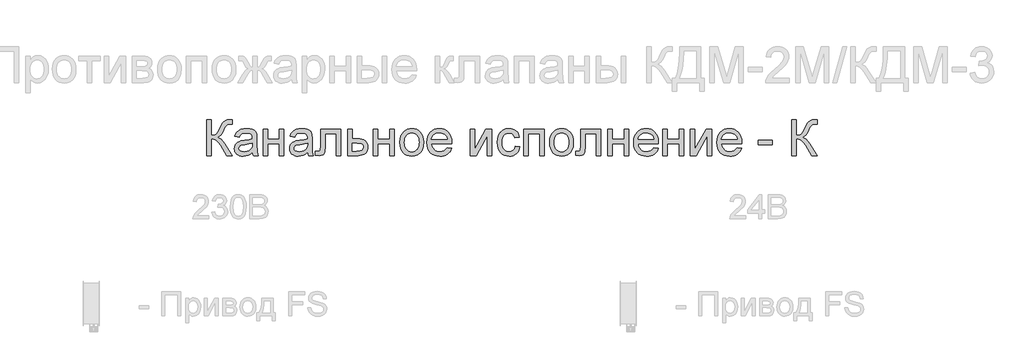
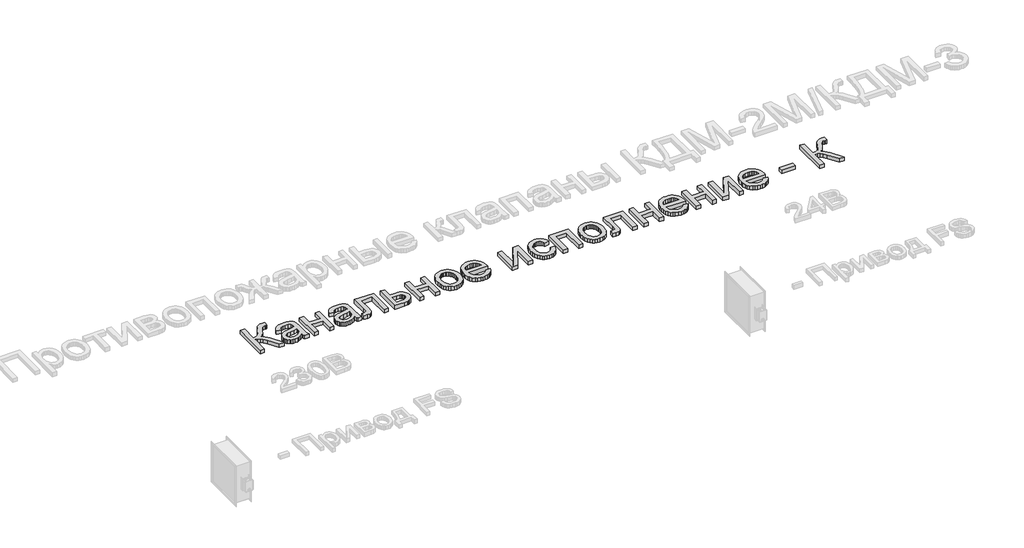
# One storey, part 12 of 23: 1 proxy.
"""IFC4 building model written with IfcOpenShell, lengths in millimetres."""

from ifc_helpers import new_model, si_unit, origin, origin_with_axes, place, context, project, spatial, polyline, outline, extrude, element, save

model = new_model("IFC4")

# Units and contexts
model_context = context("Model", 3, world=origin())
ifc_project = project(units=[si_unit("LENGTHUNIT", "METRE", prefix="MILLI")], contexts=[model_context])

# Site, building, storey
site = spatial("IfcSite", under=ifc_project)
building = spatial("IfcBuilding", under=site)
storey = spatial("IfcBuildingStorey", under=building, Name="Этаж 01", Elevation=0.0)

# Proxy
placement = place(None, origin())
element("IfcBuildingElementProxy", 1, Name="450 мм Arial", ObjectType="450 мм Arial", at=placement, inside=storey, context=model_context, shape_type="SweptSolid", body=[
    extrude(outline(polyline([(3648.5482803, -2074.0978463), (3704.7552982, -2074.0978463), (3704.7552982, -2270.8224088), (3742.807559, -2267.1036339), (3767.6039656, -2255.9473093), (3787.652416, -2229.6963266), (3811.4608086, -2180.6935774), (3842.4734698, -2117.84491), (3857.4309038, -2100.8153911), (3877.602856, -2086.7224694), (3901.5484727, -2077.2540021), (3927.8269003, -2074.0978463), (3964.7127557, -2074.7565223), (3964.7127557, -2130.9635401), (3952.3076912, -2130.6342021), (3939.9026267, -2130.3048641), (3914.1593735, -2133.6805786), (3895.9908941, -2143.8077219), (3880.3473393, -2165.0774675), (3862.6179772, -2201.6614298), (3840.8679471, -2247.2198524), (3822.8229694, -2272.1397607), (3805.0249953, -2285.2583909), (3784.0159757, -2295.4129791), (3805.7865894, -2304.6756102), (3827.4062565, -2320.8268944), (3848.8749771, -2343.8668316), (3870.1927511, -2373.7954219), (3964.7127557, -2523.7539891), (3899.5038327, -2523.7539891), (3819.5844792, -2397.0686403), (3788.7227645, -2356.4365651), (3763.3225716, -2330.9265929), (3737.3460373, -2317.4649023), (3704.7552982, -2312.9776721), (3704.7552982, -2523.7539891), (3648.5482803, -2523.7539891), (3648.5482803, -2074.0978463)])), origin_with_axes(), (0.0, 0.0, 1.0), 50.0),
    extrude(outline(polyline([(4217.6443361, -2481.5987257), (4190.789567, -2504.6249405), (4163.1388978, -2519.6921538), (4134.0610974, -2528.0079382), (4102.9249344, -2530.7798663), (4077.8986774, -2529.1125927), (4055.9531028, -2524.1107719), (4037.0882108, -2515.7744039), (4021.3040012, -2504.1034887), (4008.8406165, -2489.8390368), (3999.9381988, -2473.7220587), (3994.5967482, -2455.7525543), (3992.8162646, -2435.9305237), (3995.5058583, -2412.6298605), (4003.5746392, -2391.4698943), (4016.0208709, -2373.3563046), (4031.8428171, -2359.1947708), (4050.4366914, -2348.491286), (4071.1987075, -2340.7518431), (4119.8309515, -2332.2988345), (4177.3004316, -2323.4067087), (4217.3149981, -2312.9776721), (4217.6443361, -2300.4628283), (4213.7746146, -2275.378251), (4202.1654503, -2258.9662409), (4176.2026383, -2246.7807351), (4140.0303485, -2242.7188998), (4106.5476523, -2245.4222159), (4083.1646547, -2253.532164), (4067.2192067, -2268.5307652), (4056.0491597, -2291.9000405), (3999.8421419, -2284.8741632), (4009.59878, -2254.1359503), (4024.1582639, -2229.9844974), (4044.8791127, -2211.5141248), (4073.1198458, -2197.8191532), (4107.6591681, -2189.3386998), (4147.2757844, -2186.511882), (4185.2731556, -2189.0093618), (4215.3938598, -2196.5018012), (4238.104459, -2207.7679051), (4253.8715155, -2221.5863785), (4264.3279969, -2238.670787), (4271.1068706, -2259.7346963), (4273.8513539, -2308.9158369), (4273.8513539, -2378.8452712), (4276.7056165, -2476.4939868), (4287.9031084, -2523.7539891), (4231.6960905, -2523.7539891), (4222.6941853, -2504.213268), (4217.6443361, -2481.5987257)]), holes=[polyline([(4217.6443361, -2369.18469), (4179.8802459, -2378.543378), (4126.966608, -2386.4200451), (4078.6088124, -2395.5317296), (4066.0253565, -2401.7617067), (4056.7078357, -2410.3519394), (4050.9444208, -2420.6437518), (4049.0232825, -2431.9784678), (4053.2086195, -2448.692371), (4065.7646306, -2462.3873427), (4086.4168674, -2471.526472), (4114.8908815, -2474.5728485), (4145.0801978, -2471.2108564), (4171.7565754, -2461.1248803), (4193.3831037, -2446.2635033), (4208.4228722, -2428.5753085), (4215.0919666, -2410.3519394), (4217.3149981, -2385.1026931), (4217.6443361, -2369.18469)])]), origin_with_axes(), (0.0, 0.0, 1.0), 50.0),
    extrude(outline(polyline([(4351.1360035, -2193.5377592), (4407.3430213, -2193.5377592), (4407.3430213, -2320.0035494), (4554.8864432, -2320.0035494), (4554.8864432, -2193.5377592), (4611.093461, -2193.5377592), (4611.093461, -2523.7539891), (4554.8864432, -2523.7539891), (4554.8864432, -2376.2105672), (4407.3430213, -2376.2105672), (4407.3430213, -2523.7539891), (4351.1360035, -2523.7539891), (4351.1360035, -2193.5377592)])), origin_with_axes(), (0.0, 0.0, 1.0), 50.0),
    extrude(outline(polyline([(4906.1803047, -2481.5987257), (4879.3255357, -2504.6249405), (4851.6748665, -2519.6921538), (4822.597066, -2528.0079382), (4791.4609031, -2530.7798663), (4766.434646, -2529.1125927), (4744.4890715, -2524.1107719), (4725.6241795, -2515.7744039), (4709.8399699, -2504.1034887), (4697.3765852, -2489.8390368), (4688.4741675, -2473.7220587), (4683.1327169, -2455.7525543), (4681.3522333, -2435.9305237), (4684.041827, -2412.6298605), (4692.1106078, -2391.4698943), (4704.5568396, -2373.3563046), (4720.3787858, -2359.1947708), (4738.9726601, -2348.491286), (4759.7346762, -2340.7518431), (4808.3669202, -2332.2988345), (4865.8364003, -2323.4067087), (4905.8509668, -2312.9776721), (4906.1803047, -2300.4628283), (4902.3105833, -2275.378251), (4890.701419, -2258.9662409), (4864.738607, -2246.7807351), (4828.5663172, -2242.7188998), (4795.083621, -2245.4222159), (4771.7006234, -2253.532164), (4755.7551754, -2268.5307652), (4744.5851284, -2291.9000405), (4688.3781106, -2284.8741632), (4698.1347487, -2254.1359503), (4712.6942326, -2229.9844974), (4733.4150814, -2211.5141248), (4761.6558145, -2197.8191532), (4796.1951368, -2189.3386998), (4835.8117531, -2186.511882), (4873.8091243, -2189.0093618), (4903.9298284, -2196.5018012), (4926.6404277, -2207.7679051), (4942.4074842, -2221.5863785), (4952.8639656, -2238.670787), (4959.6428393, -2259.7346963), (4962.3873226, -2308.9158369), (4962.3873226, -2378.8452712), (4965.2415852, -2476.4939868), (4976.4390771, -2523.7539891), (4920.2320592, -2523.7539891), (4911.230154, -2504.213268), (4906.1803047, -2481.5987257)]), holes=[polyline([(4906.1803047, -2369.18469), (4868.4162146, -2378.543378), (4815.5025767, -2386.4200451), (4767.1447811, -2395.5317296), (4754.5613252, -2401.7617067), (4745.2438044, -2410.3519394), (4739.4803895, -2420.6437518), (4737.5592512, -2431.9784678), (4741.7445882, -2448.692371), (4754.3005993, -2462.3873427), (4774.9528361, -2471.526472), (4803.4268502, -2474.5728485), (4833.6161665, -2471.2108564), (4860.2925441, -2461.1248803), (4881.9190724, -2446.2635033), (4896.9588409, -2428.5753085), (4903.6279353, -2410.3519394), (4905.8509668, -2385.1026931), (4906.1803047, -2369.18469)])]), origin_with_axes(), (0.0, 0.0, 1.0), 50.0),
    extrude(outline(polyline([(5067.7754811, -2193.5377592), (5320.7070614, -2193.5377592), (5320.7070614, -2523.4246511), (5264.5000436, -2523.4246511), (5264.5000436, -2249.7447771), (5123.9824989, -2249.7447771), (5123.9824989, -2407.2781181), (5120.195112, -2479.9520357), (5113.1006227, -2496.4052131), (5099.3919286, -2510.635359), (5078.5887452, -2520.4743316), (5050.210788, -2523.7539891), (5004.542586, -2520.8997265), (5004.542586, -2467.5469712), (5029.682053, -2467.5469712), (5055.0959683, -2464.0889223), (5061.4494471, -2459.6154145), (5065.2505564, -2453.1109891), (5067.7754811, -2404.0945175), (5067.7754811, -2193.5377592)])), origin_with_axes(), (0.0, 0.0, 1.0), 50.0),
    extrude(outline(polyline([(5405.0175882, -2193.5377592), (5461.224606, -2193.5377592), (5461.224606, -2312.9776721), (5525.9944118, -2312.9776721), (5555.8955572, -2314.7375721), (5582.14654, -2320.0172718), (5604.7473599, -2328.8167714), (5623.698017, -2341.1360707), (5638.6828958, -2356.549775), (5649.3863806, -2374.6324893), (5655.8084716, -2395.3842136), (5657.9491685, -2418.8049479), (5656.1275177, -2439.7007576), (5650.6625654, -2459.0253506), (5641.5543114, -2476.7787269), (5628.8027559, -2492.9608865), (5612.0442548, -2506.4328689), (5590.9151641, -2516.0557135), (5565.4154837, -2521.8294202), (5535.5452136, -2523.7539891), (5405.0175882, -2523.7539891), (5405.0175882, -2193.5377592)]), holes=[polyline([(5461.224606, -2467.5469712), (5513.6991266, -2467.5469712), (5554.4135363, -2464.5966517), (5581.487864, -2455.7456931), (5596.678579, -2440.6373126), (5601.7421507, -2418.9147273), (5597.995931, -2400.554134), (5586.7572719, -2384.3342378), (5576.990342, -2377.7063106), (5562.674431, -2372.9720769), (5520.3956658, -2369.18469), (5461.224606, -2369.18469), (5461.224606, -2467.5469712)])]), origin_with_axes(), (0.0, 0.0, 1.0), 50.0),
    extrude(outline(polyline([(5728.2079408, -2193.5377592), (5784.4149587, -2193.5377592), (5784.4149587, -2320.0035494), (5931.9583805, -2320.0035494), (5931.9583805, -2193.5377592), (5988.1653984, -2193.5377592), (5988.1653984, -2523.7539891), (5931.9583805, -2523.7539891), (5931.9583805, -2376.2105672), (5784.4149587, -2376.2105672), (5784.4149587, -2523.7539891), (5728.2079408, -2523.7539891), (5728.2079408, -2193.5377592)])), origin_with_axes(), (0.0, 0.0, 1.0), 50.0),
    extrude(outline(polyline([(6058.4241707, -2358.6458742), (6061.463686, -2315.8799632), (6070.5822317, -2279.0284138), (6085.7798079, -2248.0912259), (6107.0564147, -2223.0683995), (6128.4771068, -2207.0749231), (6152.1208304, -2195.6510114), (6177.9875854, -2188.7966643), (6206.0773719, -2186.511882), (6237.0866025, -2189.2941019), (6265.12493, -2197.6407617), (6290.1923543, -2211.5518614), (6312.2888754, -2231.027401), (6330.3235612, -2255.4087045), (6343.2054797, -2284.0370958), (6350.9346307, -2316.9125751), (6353.5110144, -2354.0351422), (6348.9551722, -2410.8185016), (6343.2603693, -2434.1260259), (6335.2876454, -2454.0441134), (6312.9063841, -2486.4152939), (6282.2093385, -2510.635359), (6245.7488779, -2525.7437395), (6206.0773719, -2530.7798663), (6174.6153016, -2528.0079382), (6146.3162482, -2519.6921538), (6121.1802118, -2505.8325132), (6099.2071925, -2486.4290163), (6081.3646204, -2461.8110012), (6068.6199262, -2432.3078058), (6060.9731096, -2397.9194301), (6058.4241707, -2358.6458742)]), holes=[polyline([(6114.6311886, -2358.5360948), (6116.2572949, -2385.7991057), (6121.135614, -2409.4050927), (6129.2661457, -2429.3540556), (6140.6488902, -2445.6459946), (6154.4948084, -2458.3014931), (6170.0148614, -2467.341135), (6187.2090493, -2472.7649201), (6206.0773719, -2474.5728485), (6224.8496376, -2472.7546283), (6241.9752134, -2467.2999677), (6257.4540992, -2458.2088668), (6271.286295, -2445.4813256), (6282.6690394, -2429.0281482), (6290.7995712, -2408.7601391), (6295.6778902, -2384.6772982), (6297.3039966, -2356.7796255), (6295.6675984, -2330.3811268), (6290.7584039, -2307.3926486), (6282.5764131, -2287.814191), (6271.121626, -2271.6457537), (6257.2379711, -2258.9902552), (6241.7693771, -2249.9506133), (6224.7158441, -2244.5268282), (6206.0773719, -2242.7188998), (6187.2090493, -2244.519967), (6170.0148614, -2249.9231685), (6154.4948084, -2258.9285043), (6140.6488902, -2271.5359744), (6129.2661457, -2287.7798849), (6121.135614, -2307.6945418), (6116.2572949, -2331.2799451), (6114.6311886, -2358.5360948)])]), origin_with_axes(), (0.0, 0.0, 1.0), 50.0),
    extrude(outline(polyline([(6647.9391822, -2425.3917079), (6703.0484067, -2432.4175851), (6694.5988288, -2454.490092), (6683.1920701, -2473.9416173), (6668.8281306, -2490.7721611), (6651.5070105, -2504.9817234), (6631.4071009, -2516.2684109), (6608.7067935, -2524.3303306), (6583.4060881, -2529.1674824), (6555.5049848, -2530.7798663), (6520.6294634, -2527.9976464), (6489.5550513, -2519.6509866), (6462.2817486, -2505.7398869), (6438.8095552, -2486.2643473), (6419.9343714, -2461.7664033), (6406.4520972, -2432.7880903), (6398.3627327, -2399.3294084), (6395.6662778, -2361.3903574), (6398.3901775, -2322.16483), (6406.5618765, -2287.5912017), (6420.1813748, -2257.6694726), (6439.2486725, -2232.3996427), (6462.659115, -2212.3237474), (6489.3080478, -2197.9838221), (6519.1954709, -2189.379867), (6552.3213842, -2186.511882), (6584.3803797, -2189.3730058), (6613.3724151, -2197.9563773), (6639.2974904, -2212.2619965), (6662.1556056, -2232.2898633), (6680.8146614, -2257.5048036), (6694.1425584, -2287.371643), (6702.1392966, -2321.8903816), (6704.804876, -2361.0610195), (6704.475538, -2376.2105672), (6451.8732957, -2376.2105672), (6455.128939, -2398.639857), (6461.602489, -2418.2834961), (6471.2939456, -2435.1414848), (6484.2033089, -2449.2138228), (6499.6170132, -2460.3083966), (6516.8214928, -2468.2330921), (6535.8167478, -2472.9879094), (6556.6027782, -2474.5728485), (6586.5176461, -2471.6362514), (6611.7120027, -2462.82646), (6632.1858481, -2447.5945777), (6647.9391822, -2425.3917079)]), holes=[polyline([(6451.8732957, -2320.0035494), (6648.5978582, -2320.0035494), (6640.9956394, -2290.3082401), (6626.0930952, -2269.0659395), (6610.765156, -2257.5391096), (6593.3239646, -2249.3056597), (6573.7695212, -2244.3655898), (6552.1018256, -2242.7188998), (6514.2142337, -2247.9745853), (6482.8859569, -2263.7416419), (6470.4294334, -2275.1415393), (6461.108482, -2288.3184898), (6454.9231027, -2303.2724931), (6451.8732957, -2320.0035494)])]), origin_with_axes(), (0.0, 0.0, 1.0), 50.0),
    extrude(outline(polyline([(6936.6588247, -2193.5377592), (6992.8658425, -2193.5377592), (6992.8658425, -2445.3715462), (7130.9682418, -2193.5377592), (7203.6421595, -2193.5377592), (7203.6421595, -2523.7539891), (7147.4351416, -2523.7539891), (7147.4351416, -2273.4571127), (7010.2109769, -2523.7539891), (6936.6588247, -2523.7539891), (6936.6588247, -2193.5377592)])), origin_with_axes(), (0.0, 0.0, 1.0), 50.0),
    extrude(outline(polyline([(7498.7290032, -2404.3140762), (7554.936021, -2411.3399534), (7548.8226845, -2437.8619538), (7539.2650214, -2461.3307166), (7526.2630318, -2481.7462417), (7509.8167157, -2499.1085291), (7490.619055, -2512.9647391), (7469.3630319, -2522.862032), (7446.0486464, -2528.8004078), (7420.6758983, -2530.7798663), (7389.1520771, -2528.01823), (7360.8873298, -2519.7333211), (7335.8816564, -2505.9251395), (7314.1350569, -2486.5936853), (7296.5326271, -2462.1026025), (7283.959463, -2432.8155352), (7276.4155646, -2398.7324833), (7273.9009318, -2359.8534468), (7278.1960481, -2309.8352388), (7291.0813972, -2266.4861252), (7300.796868, -2247.7310124), (7312.7628152, -2231.4802407), (7326.9792387, -2217.7338101), (7343.4461384, -2206.4917204), (7380.1536025, -2191.5068416), (7419.907443, -2186.511882), (7444.8445043, -2188.227184), (7467.4007264, -2193.3730902), (7487.5761092, -2201.9496005), (7505.3706527, -2213.9567149), (7520.4824639, -2229.1199851), (7532.6096494, -2247.1649628), (7541.7522094, -2268.0916479), (7547.9101438, -2291.9000405), (7491.7031259, -2298.9259177), (7481.5073705, -2274.4039595), (7465.6305347, -2256.825544), (7444.950853, -2246.2455609), (7420.3465603, -2242.7188998), (7401.2483872, -2244.4547855), (7384.0233239, -2249.6624426), (7368.6713705, -2258.341871), (7355.1925269, -2270.4930708), (7344.2180244, -2286.3973515), (7336.3790939, -2306.3360226), (7331.6757357, -2330.3090841), (7330.1079496, -2358.3165362), (7331.6414297, -2386.7459525), (7336.2418698, -2410.996893), (7343.90927, -2431.0693577), (7354.6436303, -2446.9633465), (7367.8548867, -2459.0425036), (7382.9529754, -2467.670473), (7399.9378964, -2472.8472546), (7418.8096497, -2474.5728485), (7447.914895, -2470.2640097), (7471.7781772, -2457.3374934), (7489.1370341, -2435.4639615), (7498.7290032, -2404.3140762)])), origin_with_axes(), (0.0, 0.0, 1.0), 50.0),
    extrude(outline(polyline([(7604.1171617, -2193.5377592), (7857.048742, -2193.5377592), (7857.048742, -2523.7539891), (7800.8417241, -2523.7539891), (7800.8417241, -2249.7447771), (7660.3241795, -2249.7447771), (7660.3241795, -2523.7539891), (7604.1171617, -2523.7539891), (7604.1171617, -2193.5377592)])), origin_with_axes(), (0.0, 0.0, 1.0), 50.0),
    extrude(outline(polyline([(7927.3075143, -2358.6458742), (7930.3470295, -2315.8799632), (7939.4655753, -2279.0284138), (7954.6631515, -2248.0912259), (7975.9397583, -2223.0683995), (7997.3604504, -2207.0749231), (8021.0041739, -2195.6510114), (8046.870929, -2188.7966643), (8074.9607155, -2186.511882), (8105.9699461, -2189.2941019), (8134.0082736, -2197.6407617), (8159.0756978, -2211.5518614), (8181.172219, -2231.027401), (8199.2069048, -2255.4087045), (8212.0888233, -2284.0370958), (8219.8179743, -2316.9125751), (8222.394358, -2354.0351422), (8217.8385158, -2410.8185016), (8212.1437129, -2434.1260259), (8204.170989, -2454.0441134), (8181.7897277, -2486.4152939), (8151.0926821, -2510.635359), (8114.6322215, -2525.7437395), (8074.9607155, -2530.7798663), (8043.4986451, -2528.0079382), (8015.1995918, -2519.6921538), (7990.0635554, -2505.8325132), (7968.090536, -2486.4290163), (7950.247964, -2461.8110012), (7937.5032697, -2432.3078058), (7929.8564532, -2397.9194301), (7927.3075143, -2358.6458742)]), holes=[polyline([(7983.5145322, -2358.5360948), (7985.1406385, -2385.7991057), (7990.0189576, -2409.4050927), (7998.1494893, -2429.3540556), (8009.5322338, -2445.6459946), (8023.378152, -2458.3014931), (8038.898205, -2467.341135), (8056.0923929, -2472.7649201), (8074.9607155, -2474.5728485), (8093.7329812, -2472.7546283), (8110.858557, -2467.2999677), (8126.3374428, -2458.2088668), (8140.1696386, -2445.4813256), (8151.552383, -2429.0281482), (8159.6829148, -2408.7601391), (8164.5612338, -2384.6772982), (8166.1873402, -2356.7796255), (8164.550942, -2330.3811268), (8159.6417475, -2307.3926486), (8151.4597567, -2287.814191), (8140.0049696, -2271.6457537), (8126.1213147, -2258.9902552), (8110.6527207, -2249.9506133), (8093.5991877, -2244.5268282), (8074.9607155, -2242.7188998), (8056.0923929, -2244.519967), (8038.898205, -2249.9231685), (8023.378152, -2258.9285043), (8009.5322338, -2271.5359744), (7998.1494893, -2287.7798849), (7990.0189576, -2307.6945418), (7985.1406385, -2331.2799451), (7983.5145322, -2358.5360948)])]), origin_with_axes(), (0.0, 0.0, 1.0), 50.0),
    extrude(outline(polyline([(8313.730762, -2193.5377592), (8566.6623424, -2193.5377592), (8566.6623424, -2523.4246511), (8510.4553245, -2523.4246511), (8510.4553245, -2249.7447771), (8369.9377799, -2249.7447771), (8369.9377799, -2407.2781181), (8366.1503929, -2479.9520357), (8359.0559036, -2496.4052131), (8345.3472096, -2510.635359), (8324.5440262, -2520.4743316), (8296.166069, -2523.7539891), (8250.497867, -2520.8997265), (8250.497867, -2467.5469712), (8275.6373339, -2467.5469712), (8301.0512492, -2464.0889223), (8307.404728, -2459.6154145), (8311.2058374, -2453.1109891), (8313.730762, -2404.0945175), (8313.730762, -2193.5377592)])), origin_with_axes(), (0.0, 0.0, 1.0), 50.0),
    extrude(outline(polyline([(8650.9728691, -2193.5377592), (8707.179887, -2193.5377592), (8707.179887, -2320.0035494), (8854.7233089, -2320.0035494), (8854.7233089, -2193.5377592), (8910.9303267, -2193.5377592), (8910.9303267, -2523.7539891), (8854.7233089, -2523.7539891), (8854.7233089, -2376.2105672), (8707.179887, -2376.2105672), (8707.179887, -2523.7539891), (8650.9728691, -2523.7539891), (8650.9728691, -2193.5377592)])), origin_with_axes(), (0.0, 0.0, 1.0), 50.0),
    extrude(outline(polyline([(9226.4361261, -2425.3917079), (9281.5453507, -2432.4175851), (9273.0957727, -2454.490092), (9261.689014, -2473.9416173), (9247.3250746, -2490.7721611), (9230.0039544, -2504.9817234), (9209.9040449, -2516.2684109), (9187.2037375, -2524.3303306), (9161.9030321, -2529.1674824), (9134.0019288, -2530.7798663), (9099.1264074, -2527.9976464), (9068.0519953, -2519.6509866), (9040.7786925, -2505.7398869), (9017.3064992, -2486.2643473), (8998.4313153, -2461.7664033), (8984.9490411, -2432.7880903), (8976.8596766, -2399.3294084), (8974.1632218, -2361.3903574), (8976.8871215, -2322.16483), (8985.0588205, -2287.5912017), (8998.6783188, -2257.6694726), (9017.7456165, -2232.3996427), (9041.156059, -2212.3237474), (9067.8049918, -2197.9838221), (9097.6924148, -2189.379867), (9130.8183282, -2186.511882), (9162.8773237, -2189.3730058), (9191.8693591, -2197.9563773), (9217.7944344, -2212.2619965), (9240.6525496, -2232.2898633), (9259.3116054, -2257.5048036), (9272.6395024, -2287.371643), (9280.6362406, -2321.8903816), (9283.30182, -2361.0610195), (9282.972482, -2376.2105672), (9030.3702397, -2376.2105672), (9033.625883, -2398.639857), (9040.0994329, -2418.2834961), (9049.7908896, -2435.1414848), (9062.7002528, -2449.2138228), (9078.1139571, -2460.3083966), (9095.3184368, -2468.2330921), (9114.3136918, -2472.9879094), (9135.0997221, -2474.5728485), (9165.01459, -2471.6362514), (9190.2089467, -2462.82646), (9210.682792, -2447.5945777), (9226.4361261, -2425.3917079)]), holes=[polyline([(9030.3702397, -2320.0035494), (9227.0948021, -2320.0035494), (9219.4925834, -2290.3082401), (9204.5900391, -2269.0659395), (9189.2620999, -2257.5391096), (9171.8209086, -2249.3056597), (9152.2664651, -2244.3655898), (9130.5987695, -2242.7188998), (9092.7111777, -2247.9745853), (9061.3829009, -2263.7416419), (9048.9263773, -2275.1415393), (9039.6054259, -2288.3184898), (9033.4200467, -2303.2724931), (9030.3702397, -2320.0035494)])]), origin_with_axes(), (0.0, 0.0, 1.0), 50.0),
    extrude(outline(polyline([(9339.5088378, -2193.5377592), (9395.7158557, -2193.5377592), (9395.7158557, -2320.0035494), (9543.2592776, -2320.0035494), (9543.2592776, -2193.5377592), (9599.4662954, -2193.5377592), (9599.4662954, -2523.7539891), (9543.2592776, -2523.7539891), (9543.2592776, -2376.2105672), (9395.7158557, -2376.2105672), (9395.7158557, -2523.7539891), (9339.5088378, -2523.7539891), (9339.5088378, -2193.5377592)])), origin_with_axes(), (0.0, 0.0, 1.0), 50.0),
    extrude(outline(polyline([(9683.7768222, -2193.5377592), (9739.98384, -2193.5377592), (9739.98384, -2445.3715462), (9878.0862394, -2193.5377592), (9950.760157, -2193.5377592), (9950.760157, -2523.7539891), (9894.5531391, -2523.7539891), (9894.5531391, -2273.4571127), (9757.3289744, -2523.7539891), (9683.7768222, -2523.7539891), (9683.7768222, -2193.5377592)])), origin_with_axes(), (0.0, 0.0, 1.0), 50.0),
    extrude(outline(polyline([(10266.2659564, -2425.3917079), (10321.3751809, -2432.4175851), (10312.925603, -2454.490092), (10301.5188443, -2473.9416173), (10287.1549049, -2490.7721611), (10269.8337847, -2504.9817234), (10249.7338752, -2516.2684109), (10227.0335677, -2524.3303306), (10201.7328624, -2529.1674824), (10173.8317591, -2530.7798663), (10138.9562376, -2527.9976464), (10107.8818255, -2519.6509866), (10080.6085228, -2505.7398869), (10057.1363294, -2486.2643473), (10038.2611456, -2461.7664033), (10024.7788714, -2432.7880903), (10016.6895069, -2399.3294084), (10013.9930521, -2361.3903574), (10016.7169517, -2322.16483), (10024.8886507, -2287.5912017), (10038.5081491, -2257.6694726), (10057.5754468, -2232.3996427), (10080.9858893, -2212.3237474), (10107.634822, -2197.9838221), (10137.5222451, -2189.379867), (10170.6481585, -2186.511882), (10202.7071539, -2189.3730058), (10231.6991893, -2197.9563773), (10257.6242646, -2212.2619965), (10280.4823799, -2232.2898633), (10299.1414357, -2257.5048036), (10312.4693327, -2287.371643), (10320.4660709, -2321.8903816), (10323.1316503, -2361.0610195), (10322.8023123, -2376.2105672), (10070.2000699, -2376.2105672), (10073.4557132, -2398.639857), (10079.9292632, -2418.2834961), (10089.6207198, -2435.1414848), (10102.5300831, -2449.2138228), (10117.9437874, -2460.3083966), (10135.1482671, -2468.2330921), (10154.1435221, -2472.9879094), (10174.9295524, -2474.5728485), (10204.8444203, -2471.6362514), (10230.0387769, -2462.82646), (10250.5126223, -2447.5945777), (10266.2659564, -2425.3917079)]), holes=[polyline([(10070.2000699, -2320.0035494), (10266.9246324, -2320.0035494), (10259.3224137, -2290.3082401), (10244.4198694, -2269.0659395), (10229.0919302, -2257.5391096), (10211.6507389, -2249.3056597), (10192.0962954, -2244.3655898), (10170.4285998, -2242.7188998), (10132.5410079, -2247.9745853), (10101.2127311, -2263.7416419), (10088.7562076, -2275.1415393), (10079.4352562, -2288.3184898), (10073.249877, -2303.2724931), (10070.2000699, -2320.0035494)])]), origin_with_axes(), (0.0, 0.0, 1.0), 50.0),
    extrude(outline(polyline([(10526.88209, -2390.2623217), (10526.88209, -2334.0553038), (10702.5290208, -2334.0553038), (10702.5290208, -2390.2623217), (10526.88209, -2390.2623217)])), origin_with_axes(), (0.0, 0.0, 1.0), 50.0),
    extrude(outline(polyline([(10948.4347239, -2074.0978463), (11004.6417417, -2074.0978463), (11004.6417417, -2270.8224088), (11042.6940026, -2267.1036339), (11067.4904091, -2255.9473093), (11087.5388596, -2229.6963266), (11111.3472522, -2180.6935774), (11142.3599134, -2117.84491), (11157.3173473, -2100.8153911), (11177.4892995, -2086.7224694), (11201.4349163, -2077.2540021), (11227.7133438, -2074.0978463), (11264.5991993, -2074.7565223), (11264.5991993, -2130.9635401), (11252.1941348, -2130.6342021), (11239.7890703, -2130.3048641), (11214.045817, -2133.6805786), (11195.8773376, -2143.8077219), (11180.2337828, -2165.0774675), (11162.5044208, -2201.6614298), (11140.7543907, -2247.2198524), (11122.709413, -2272.1397607), (11104.9114388, -2285.2583909), (11083.9024192, -2295.4129791), (11105.673033, -2304.6756102), (11127.2927001, -2320.8268944), (11148.7614207, -2343.8668316), (11170.0791946, -2373.7954219), (11264.5991993, -2523.7539891), (11199.3902762, -2523.7539891), (11119.4709227, -2397.0686403), (11088.6092081, -2356.4365651), (11063.2090152, -2330.9265929), (11037.2324808, -2317.4649023), (11004.6417417, -2312.9776721), (11004.6417417, -2523.7539891), (10948.4347239, -2523.7539891), (10948.4347239, -2074.0978463)])), origin_with_axes(), (0.0, 0.0, 1.0), 50.0),
])

save(model, "model.ifc")
